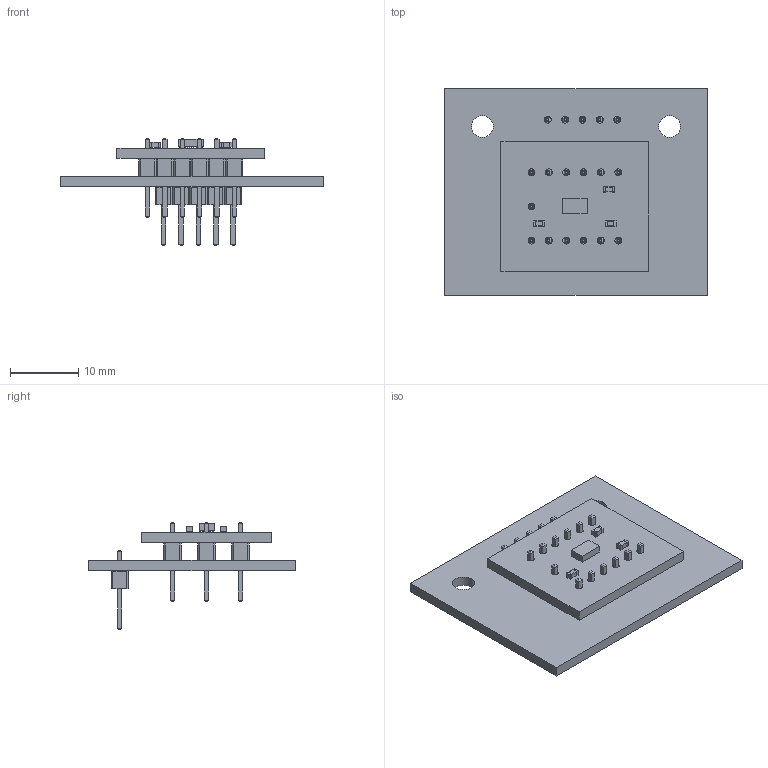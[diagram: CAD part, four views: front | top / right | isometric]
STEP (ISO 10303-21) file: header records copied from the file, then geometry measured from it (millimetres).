
FILE_DESCRIPTION(('KiCad electronic assembly'),'2;1');
FILE_NAME('LiDAR Distance Measurement V1.step','2026-02-17T03:32:50',( 'Pcbnew'),('Kicad'),'Open CASCADE STEP processor 7.9', 'KiCad to STEP converter','Unknown');
FILE_SCHEMA(('AUTOMOTIVE_DESIGN { 1 0 10303 214 1 1 1 1 }'));
Length unit declared in the file: millimetre
Products named in the file (11): LiDAR Distance Measurement V1 1; Breakout OSRAM_TMF8806-1AM V1; C_0603_1608Metric; TMF8806-1AM_OLGA12_LF_T&RDP; Body; Pins; PinHeader_1x01_P2.54mm_Vertical; PinHeader_1x06_P2.54mm_Vertical; Breakout OSRAM_TMF8806-1AM V1_PCB; PinHeader_1x05_P2.54mm_Vertical; LiDAR Distance Measurement V1_PCB
Assembly tree (13 placements, depth 4):
  LiDAR Distance Measurement V1 1
    Breakout OSRAM_TMF8806-1AM V1
      C_0603_1608Metric  x3
      TMF8806-1AM_OLGA12_LF_T&RDP
        Body
        Pins
      PinHeader_1x01_P2.54mm_Vertical
      PinHeader_1x06_P2.54mm_Vertical  x2
      Breakout OSRAM_TMF8806-1AM V1_PCB
    PinHeader_1x05_P2.54mm_Vertical
    LiDAR Distance Measurement V1_PCB
Bounding box: 38.5 x 30.25 x 15.68 mm (x, y, z)
Volume: 2684.3 mm3; surface area: 4555.8 mm2
Topology: 22 solids, 22 shells, 655 faces, 1563 edges, 994 vertices
Faces by surface type: plane 586, cylinder 69
Full cylindrical faces by diameter (mm): 1 x31, 3.2 x2
Entity records: 15393 total; most frequent: CARTESIAN_POINT 2208, ORIENTED_EDGE 2130, DIRECTION 2085, EDGE_CURVE 1065, LINE 975, VECTOR 975, VERTEX_POINT 678, AXIS2_PLACEMENT_3D 555
